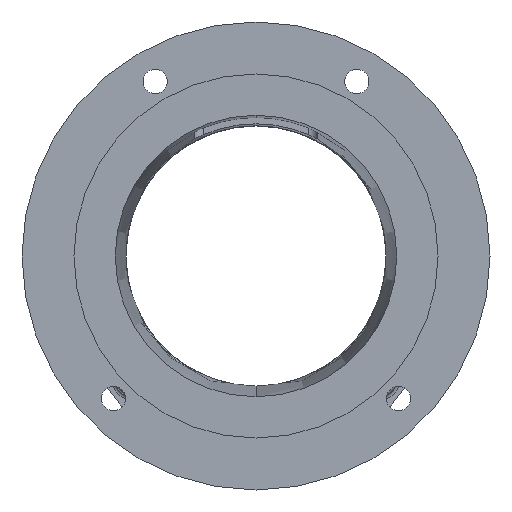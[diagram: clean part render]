
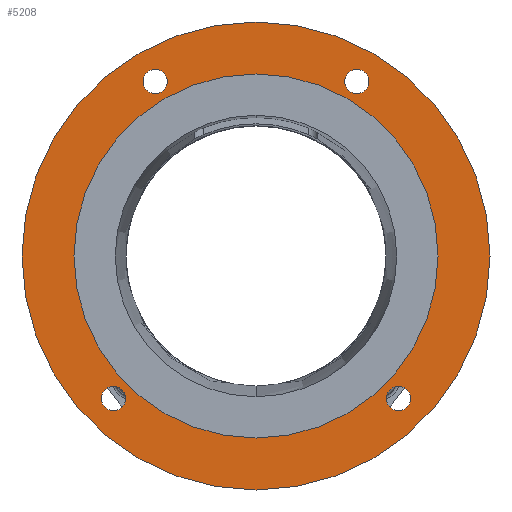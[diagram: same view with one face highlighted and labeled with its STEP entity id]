
A CAD part, front view. The second image highlights one B-rep face of the part: STEP entity #5208.
In plain terms, the highlighted planar face has unit normal (0, -1, 0).
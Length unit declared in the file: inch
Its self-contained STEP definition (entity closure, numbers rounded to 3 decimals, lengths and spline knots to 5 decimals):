
#9 = DIRECTION ( 'NONE',  ( 0., 0., -1. ) ) ;
#57 = CIRCLE ( 'NONE', #4409, 4.5 ) ;
#58 = DIRECTION ( 'NONE',  ( 0., -1., 0. ) ) ;
#83 = CARTESIAN_POINT ( 'NONE',  ( -2.74004, 0., -2.74004 ) ) ;
#155 = EDGE_CURVE ( 'NONE', #1019, #6429, #369, .T. ) ;
#369 = CIRCLE ( 'NONE', #4180, 4.5 ) ;
#437 = DIRECTION ( 'NONE',  ( 0., 0., -1. ) ) ;
#480 = DIRECTION ( 'NONE',  ( 0., -1., 0. ) ) ;
#504 = EDGE_CURVE ( 'NONE', #5821, #6796, #6335, .T. ) ;
#545 = VERTEX_POINT ( 'NONE', #8192 ) ;
#609 = CARTESIAN_POINT ( 'NONE',  ( 0., 0., 0. ) ) ;
#672 = DIRECTION ( 'NONE',  ( 0., 0., -1. ) ) ;
#882 = ORIENTED_EDGE ( 'NONE', *, *, #4972, .F. ) ;
#912 = DIRECTION ( 'NONE',  ( 0., -1., 0. ) ) ;
#931 = AXIS2_PLACEMENT_3D ( 'NONE', #7658, #7647, #7637 ) ;
#1019 = VERTEX_POINT ( 'NONE', #3796 ) ;
#1175 = CARTESIAN_POINT ( 'NONE',  ( 2.74004, 0., -2.74004 ) ) ;
#1182 = ORIENTED_EDGE ( 'NONE', *, *, #7883, .F. ) ;
#1183 = FACE_BOUND ( 'NONE', #6084, .T. ) ;
#1206 = AXIS2_PLACEMENT_3D ( 'NONE', #609, #5641, #1344 ) ;
#1328 = EDGE_LOOP ( 'NONE', ( #7164, #5935 ) ) ;
#1344 = DIRECTION ( 'NONE',  ( 0., 0., -1. ) ) ;
#1416 = CIRCLE ( 'NONE', #5963, 0.23438 ) ;
#1457 = DIRECTION ( 'NONE',  ( 0., -1., 0. ) ) ;
#1616 = CARTESIAN_POINT ( 'NONE',  ( 2.74004, 0., -2.74004 ) ) ;
#1627 = DIRECTION ( 'NONE',  ( 0., 0., -1. ) ) ;
#1707 = DIRECTION ( 'NONE',  ( 0., -1., 0. ) ) ;
#2171 = EDGE_LOOP ( 'NONE', ( #3608, #3465 ) ) ;
#2198 = EDGE_CURVE ( 'NONE', #5403, #5880, #8934, .T. ) ;
#2272 = CARTESIAN_POINT ( 'NONE',  ( -2.74004, 0., -2.50566 ) ) ;
#2519 = ORIENTED_EDGE ( 'NONE', *, *, #2968, .F. ) ;
#2661 = CARTESIAN_POINT ( 'NONE',  ( 1.9375, 0., 3.12147 ) ) ;
#2785 = AXIS2_PLACEMENT_3D ( 'NONE', #4866, #4545, #4531 ) ;
#2843 = DIRECTION ( 'NONE',  ( 0., 0., -1. ) ) ;
#2854 = DIRECTION ( 'NONE',  ( 0., -1., 0. ) ) ;
#2856 = CARTESIAN_POINT ( 'NONE',  ( 0., 0., 0. ) ) ;
#2968 = EDGE_CURVE ( 'NONE', #545, #7279, #4847, .T. ) ;
#3121 = FACE_BOUND ( 'NONE', #1328, .T. ) ;
#3222 = CARTESIAN_POINT ( 'NONE',  ( 2.74004, 0., -2.50566 ) ) ;
#3422 = AXIS2_PLACEMENT_3D ( 'NONE', #4855, #480, #5525 ) ;
#3429 = CIRCLE ( 'NONE', #1206, 3.501 ) ;
#3465 = ORIENTED_EDGE ( 'NONE', *, *, #6535, .T. ) ;
#3482 = CARTESIAN_POINT ( 'NONE',  ( -1.9375, 0., 3.12147 ) ) ;
#3528 = AXIS2_PLACEMENT_3D ( 'NONE', #83, #58, #9 ) ;
#3602 = EDGE_LOOP ( 'NONE', ( #6817, #1182 ) ) ;
#3608 = ORIENTED_EDGE ( 'NONE', *, *, #155, .T. ) ;
#3746 = DIRECTION ( 'NONE',  ( 0., 0., -1. ) ) ;
#3747 = DIRECTION ( 'NONE',  ( 0., -1., 0. ) ) ;
#3759 = CARTESIAN_POINT ( 'NONE',  ( -1.9375, 0., 3.35585 ) ) ;
#3788 = CARTESIAN_POINT ( 'NONE',  ( -2.74004, 0., -2.97441 ) ) ;
#3796 = CARTESIAN_POINT ( 'NONE',  ( 0., 0., -4.5 ) ) ;
#3810 = EDGE_LOOP ( 'NONE', ( #5168, #7527 ) ) ;
#4180 = AXIS2_PLACEMENT_3D ( 'NONE', #2856, #2854, #2843 ) ;
#4260 = CIRCLE ( 'NONE', #8406, 0.23438 ) ;
#4391 = VERTEX_POINT ( 'NONE', #5892 ) ;
#4408 = EDGE_CURVE ( 'NONE', #6998, #8877, #1416, .T. ) ;
#4409 = AXIS2_PLACEMENT_3D ( 'NONE', #8959, #4809, #437 ) ;
#4453 = AXIS2_PLACEMENT_3D ( 'NONE', #3759, #3747, #3746 ) ;
#4531 = DIRECTION ( 'NONE',  ( 0., 0., -1. ) ) ;
#4545 = DIRECTION ( 'NONE',  ( 0., -1., 0. ) ) ;
#4548 = CARTESIAN_POINT ( 'NONE',  ( 0., 0., 4.5 ) ) ;
#4774 = CIRCLE ( 'NONE', #6903, 0.23438 ) ;
#4801 = EDGE_CURVE ( 'NONE', #8877, #6998, #6742, .T. ) ;
#4809 = DIRECTION ( 'NONE',  ( 0., -1., 0. ) ) ;
#4847 = CIRCLE ( 'NONE', #6981, 0.23438 ) ;
#4855 = CARTESIAN_POINT ( 'NONE',  ( 0., 0., 0. ) ) ;
#4866 = CARTESIAN_POINT ( 'NONE',  ( 1.9375, 0., 3.35585 ) ) ;
#4972 = EDGE_CURVE ( 'NONE', #7279, #545, #4260, .T. ) ;
#5030 = FACE_BOUND ( 'NONE', #3602, .T. ) ;
#5168 = ORIENTED_EDGE ( 'NONE', *, *, #8762, .F. ) ;
#5208 = ADVANCED_FACE ( 'NONE', ( #3121, #1183, #7057, #5030, #8474, #8689 ), #7689, .F. ) ;
#5304 = DIRECTION ( 'NONE',  ( 0., 0., -1. ) ) ;
#5322 = DIRECTION ( 'NONE',  ( 0., -1., 0. ) ) ;
#5331 = CARTESIAN_POINT ( 'NONE',  ( 1.9375, 0., 3.35585 ) ) ;
#5403 = VERTEX_POINT ( 'NONE', #6488 ) ;
#5525 = DIRECTION ( 'NONE',  ( 0., 0., -1. ) ) ;
#5641 = DIRECTION ( 'NONE',  ( 0., -1., 0. ) ) ;
#5643 = CIRCLE ( 'NONE', #4453, 0.23438 ) ;
#5718 = CIRCLE ( 'NONE', #3422, 3.501 ) ;
#5753 = CARTESIAN_POINT ( 'NONE',  ( -2.74004, 0., -2.74004 ) ) ;
#5801 = EDGE_CURVE ( 'NONE', #5880, #5403, #5643, .T. ) ;
#5821 = VERTEX_POINT ( 'NONE', #3788 ) ;
#5880 = VERTEX_POINT ( 'NONE', #3482 ) ;
#5892 = CARTESIAN_POINT ( 'NONE',  ( 0., 0., 3.501 ) ) ;
#5935 = ORIENTED_EDGE ( 'NONE', *, *, #2198, .F. ) ;
#5963 = AXIS2_PLACEMENT_3D ( 'NONE', #5331, #5322, #5304 ) ;
#6084 = EDGE_LOOP ( 'NONE', ( #8670, #8119 ) ) ;
#6195 = CARTESIAN_POINT ( 'NONE',  ( 0., 0., -3.501 ) ) ;
#6308 = CARTESIAN_POINT ( 'NONE',  ( 1.9375, 0., 3.59022 ) ) ;
#6335 = CIRCLE ( 'NONE', #3528, 0.23438 ) ;
#6352 = AXIS2_PLACEMENT_3D ( 'NONE', #8414, #8384, #8357 ) ;
#6429 = VERTEX_POINT ( 'NONE', #4548 ) ;
#6448 = DIRECTION ( 'NONE',  ( 0., 0., -1. ) ) ;
#6488 = CARTESIAN_POINT ( 'NONE',  ( -1.9375, 0., 3.59022 ) ) ;
#6535 = EDGE_CURVE ( 'NONE', #6429, #1019, #57, .T. ) ;
#6742 = CIRCLE ( 'NONE', #2785, 0.23438 ) ;
#6796 = VERTEX_POINT ( 'NONE', #2272 ) ;
#6817 = ORIENTED_EDGE ( 'NONE', *, *, #504, .F. ) ;
#6903 = AXIS2_PLACEMENT_3D ( 'NONE', #5753, #1457, #6448 ) ;
#6981 = AXIS2_PLACEMENT_3D ( 'NONE', #1175, #912, #672 ) ;
#6998 = VERTEX_POINT ( 'NONE', #2661 ) ;
#7057 = FACE_BOUND ( 'NONE', #7857, .T. ) ;
#7164 = ORIENTED_EDGE ( 'NONE', *, *, #5801, .F. ) ;
#7279 = VERTEX_POINT ( 'NONE', #3222 ) ;
#7527 = ORIENTED_EDGE ( 'NONE', *, *, #7762, .F. ) ;
#7637 = DIRECTION ( 'NONE',  ( 0., 0., 1. ) ) ;
#7647 = DIRECTION ( 'NONE',  ( 0., 1., 0. ) ) ;
#7658 = CARTESIAN_POINT ( 'NONE',  ( -4.5, 0., 0. ) ) ;
#7689 = PLANE ( 'NONE',  #931 ) ;
#7734 = VERTEX_POINT ( 'NONE', #6195 ) ;
#7762 = EDGE_CURVE ( 'NONE', #4391, #7734, #3429, .T. ) ;
#7857 = EDGE_LOOP ( 'NONE', ( #2519, #882 ) ) ;
#7883 = EDGE_CURVE ( 'NONE', #6796, #5821, #4774, .T. ) ;
#8119 = ORIENTED_EDGE ( 'NONE', *, *, #4801, .F. ) ;
#8192 = CARTESIAN_POINT ( 'NONE',  ( 2.74004, 0., -2.97441 ) ) ;
#8357 = DIRECTION ( 'NONE',  ( 0., 0., -1. ) ) ;
#8384 = DIRECTION ( 'NONE',  ( 0., -1., 0. ) ) ;
#8406 = AXIS2_PLACEMENT_3D ( 'NONE', #1616, #1707, #1627 ) ;
#8414 = CARTESIAN_POINT ( 'NONE',  ( -1.9375, 0., 3.35585 ) ) ;
#8474 = FACE_BOUND ( 'NONE', #3810, .T. ) ;
#8670 = ORIENTED_EDGE ( 'NONE', *, *, #4408, .F. ) ;
#8689 = FACE_OUTER_BOUND ( 'NONE', #2171, .T. ) ;
#8762 = EDGE_CURVE ( 'NONE', #7734, #4391, #5718, .T. ) ;
#8877 = VERTEX_POINT ( 'NONE', #6308 ) ;
#8934 = CIRCLE ( 'NONE', #6352, 0.23438 ) ;
#8959 = CARTESIAN_POINT ( 'NONE',  ( 0., 0., 0. ) ) ;
